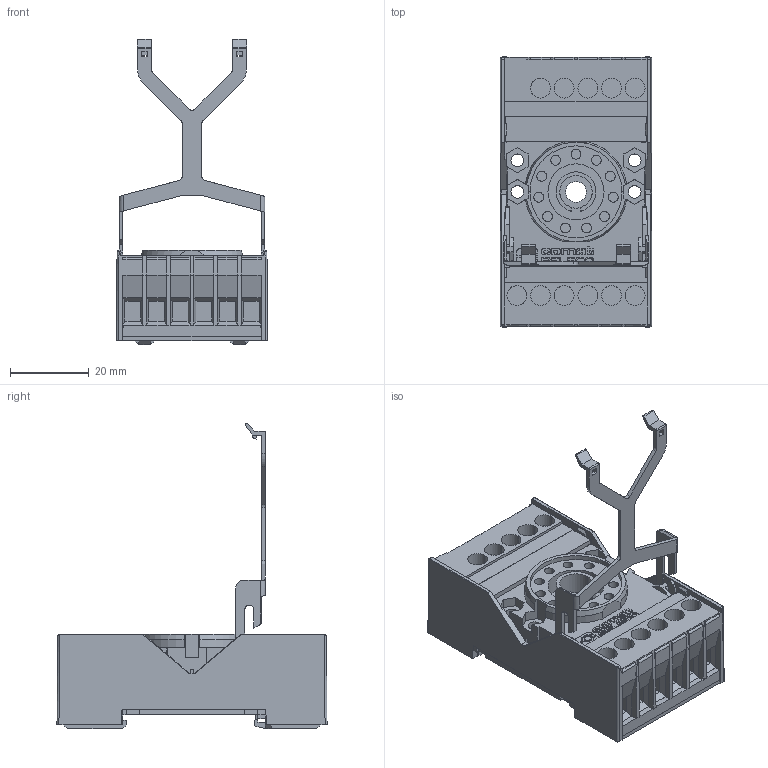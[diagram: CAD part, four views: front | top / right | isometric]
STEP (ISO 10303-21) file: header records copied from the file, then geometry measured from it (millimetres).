
FILE_DESCRIPTION (( 'STEP AP214' ), '1' );
FILE_NAME ('S3-B.STEP', '2024-04-11T06:19:50', ( '' ), ( '' ), 'SwSTEP 2.0', 'SolidWorks 2022', '' );
FILE_SCHEMA (( 'AUTOMOTIVE_DESIGN' ));
Length unit declared in the file: millimetre
Products named in the file (1): S3-B
Bounding box: 38.34 x 68.38 x 77.37 mm (x, y, z)
Volume: 44977.5 mm3; surface area: 21405.2 mm2
Topology: 1 solids, 46 shells, 1565 faces, 4083 edges, 2607 vertices
Faces by surface type: plane 1310, cylinder 159, bspline 75, cone 21
Entity records: 51058 total; most frequent: CARTESIAN_POINT 9923, ORIENTED_EDGE 8158, DIRECTION 7015, EDGE_CURVE 4079, LINE 3461, VECTOR 3461, VERTEX_POINT 2607, AXIS2_PLACEMENT_3D 1777
